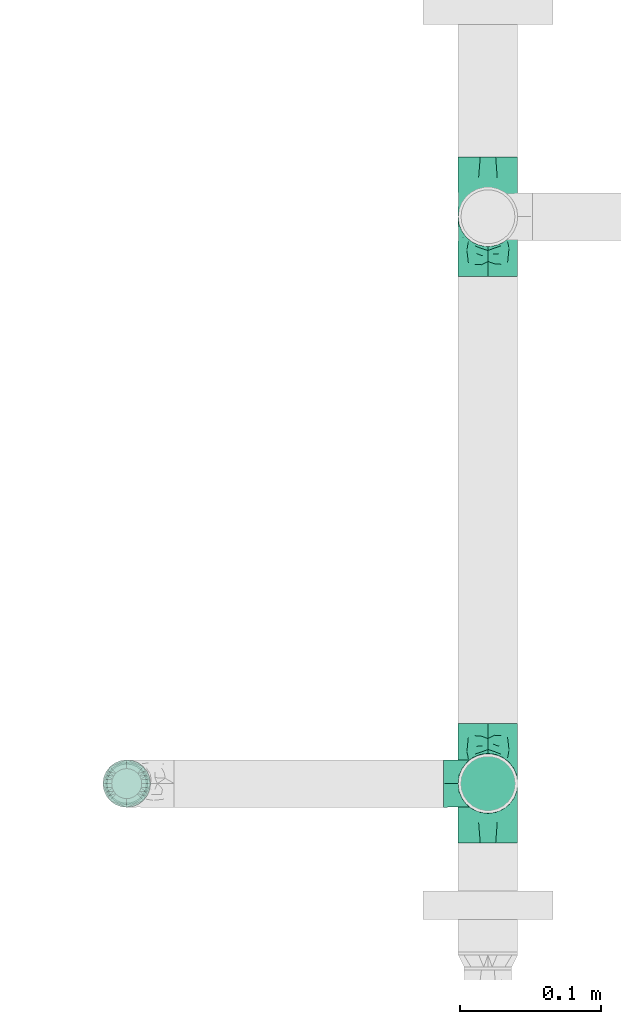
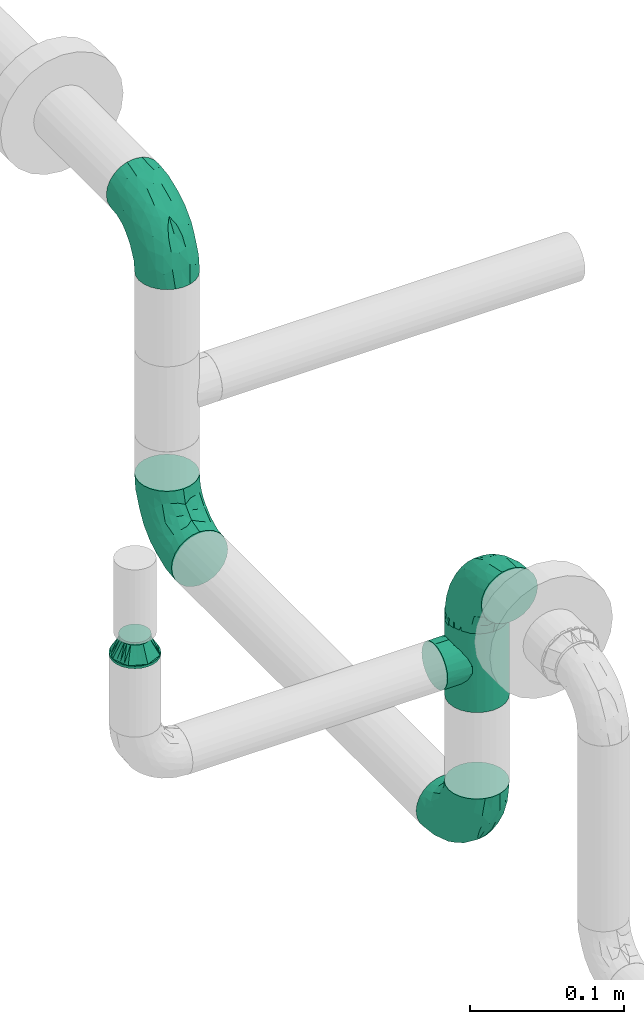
# One storey, part 17 of 43: 6 flow fittings.
"""IFC2X3 building model written with IfcOpenShell, lengths in millimetres."""

from ifc_helpers import new_model, entity, si_unit, converted_unit, derived_unit, direction, frame, origin_with_axes, place, context, subcontext, project, spatial, open_shell, surface_model, source, transform, mapped, type_object, element, save


model = new_model("IFC2X3")

# Units and contexts
model_context = context("Model", 3, precision=0.01, world=frame((0.0, 4.29681676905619e-09, 0.0)), true_north=direction((4.01073788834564e-13, 1.0)))
plan_context = context("Plan", 3, precision=0.01, world=frame((0.0, 4.29681676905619e-09, 0.0)), true_north=direction((4.01073788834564e-13, 1.0)))
body_context = subcontext(model_context, "Body", "Model", "MODEL_VIEW")
ifc_project = project(units=[converted_unit("PLANEANGLEUNIT", "DEGREE", entity("IfcPositiveLengthMeasure", 0.0174532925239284), si_unit("PLANEANGLEUNIT", "RADIAN"), dimensions=[0, 0, 0, 0, 0, 0, 0]), si_unit("AREAUNIT", "SQUARE_METRE"), si_unit("LENGTHUNIT", "METRE", prefix="MILLI"), si_unit("MASSUNIT", "GRAM", prefix="KILO"), si_unit("POWERUNIT", "WATT"), si_unit("PRESSUREUNIT", "PASCAL"), si_unit("FORCEUNIT", "NEWTON", prefix="KILO"), si_unit("ELECTRICVOLTAGEUNIT", "VOLT"), si_unit("ELECTRICCURRENTUNIT", "AMPERE"), si_unit("THERMODYNAMICTEMPERATUREUNIT", "DEGREE_CELSIUS"), si_unit("TIMEUNIT", "SECOND"), si_unit("VOLUMEUNIT", "CUBIC_METRE"), derived_unit("LINEARVELOCITYUNIT", [(si_unit("LENGTHUNIT", "METRE"), 1), (si_unit("TIMEUNIT", "SECOND"), -1)]), derived_unit("VOLUMETRICFLOWRATEUNIT", [(si_unit("VOLUMEUNIT", "CUBIC_METRE"), 1), (si_unit("TIMEUNIT", "SECOND"), -1)]), derived_unit("THERMALTRANSMITTANCEUNIT", [(si_unit("POWERUNIT", "WATT"), 1), (si_unit("THERMODYNAMICTEMPERATUREUNIT", "KELVIN"), -1), (si_unit("AREAUNIT", "SQUARE_METRE"), -1)]), derived_unit("SOUNDPRESSUREUNIT", [(si_unit("PRESSUREUNIT", "PASCAL"), 1)])], contexts=[model_context, plan_context])

# Site, building, storey
site_placement = place(None, frame((0.0, -4.29681676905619e-09, 0.0), z_axis=(0.0, 0.0, 1.0), x_axis=(1.0, 0.0, 0.0)))
site = spatial("IfcSite", under=ifc_project, at=site_placement, CompositionType="ELEMENT")
building_placement = place(site_placement, frame((0.0, 4.29681676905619e-09, 0.0), z_axis=(0.0, 0.0, 1.0), x_axis=(1.0, 0.0, 0.0)))
building = spatial("IfcBuilding", under=site, at=building_placement, Name="mc-building", CompositionType="ELEMENT")
storey_placement = place(building_placement, frame((0.0, 0.0, 210900.0), z_axis=(0.0, 0.0, 1.0), x_axis=(1.0, 0.0, 0.0)))
storey = spatial("IfcBuildingStorey", under=building, at=storey_placement, Name="Nivå F", CompositionType="ELEMENT", Elevation=210900.0)

# Flow fittings
pipe_fitting_type_1 = type_object("IfcPipeFittingType", Name="magi_pipe_fe_tee_centric_90_NOR", PredefinedType="JUNCTION")
shared_shape_1 = source(origin_with_axes(), body_context, "Body", "SurfaceModel", [
    surface_model("IfcShellBasedSurfaceModel", [(-33.8, 0.0, -21.2), (-33.8, -5.48696, -20.47763), (-33.8, 5.48696, -20.47763), (-33.8, 10.6, -18.35974), (-33.8, 14.99066, -14.99066), (-33.8, -20.47763, 5.48696), (-33.8, 18.35974, -10.6), (-33.8, 10.6, 18.35974), (-33.8, -14.99066, -14.99066), (-33.8, -18.35974, -10.6), (-33.8, -10.6, -18.35974), (-33.8, -20.47763, -5.48696), (-33.8, -21.2, 0.0), (-33.8, 18.35974, 10.6), (-33.8, 20.47763, -5.48696), (-33.8, 20.47763, 5.48696), (-33.8, 21.2, 0.0), (-33.8, 14.99066, 14.99066), (-33.8, 5.48696, 20.47763), (-33.8, 0.0, 21.2), (-33.8, -18.35974, 10.6), (-33.8, -14.99066, 14.99066), (-33.8, -10.6, 18.35974), (-33.8, -5.48696, 20.47763), (33.8, 5.48696, -20.47763), (33.8, -5.48696, -20.47763), (33.8, 0.0, -21.2), (33.8, 14.99066, -14.99066), (33.8, 10.6, -18.35974), (33.8, 18.35974, -10.6), (33.8, 20.47763, -5.48696), (33.8, -21.2, 0.0), (33.8, -10.6, -18.35974), (33.8, -18.35974, -10.6), (33.8, -14.99066, -14.99066), (33.8, -20.47763, -5.48696), (33.8, -20.47763, 5.48696), (33.8, 21.2, 0.0), (33.8, 20.47763, 5.48696), (33.8, 18.35974, 10.6), (33.8, 10.6, 18.35974), (33.8, 14.99066, 14.99066), (33.8, 0.0, 21.2), (33.8, 5.48696, 20.47763), (33.8, -14.99066, 14.99066), (33.8, -18.35974, 10.6), (33.8, -10.6, 18.35974), (33.8, -5.48696, 20.47763), (16.9, -21.2, 0.0), (15.78624, -20.32327, 6.03364), (12.81343, -18.11115, 11.01935), (8.52479, -15.37862, 14.59239), (3.07939, -13.16482, 16.61708), (-16.9, -21.2, 0.0), (-15.78686, -20.32375, 6.032), (-8.52604, -15.37932, 14.59166), (-3.0848, -13.16609, 16.61608), (-12.81602, -18.11299, 11.01634), (3.07939, -13.16482, -16.61708), (12.81343, -18.11115, -11.01935), (8.52479, -15.37862, -14.59239), (15.78624, -20.32327, -6.03364), (-3.0848, -13.16609, -16.61608), (-8.52604, -15.37932, -14.59166), (-12.81602, -18.11299, -11.01634), (-15.78686, -20.32375, -6.032), (4.37404, -31.8, -16.32415), (-16.9, -31.8, 0.0), (0.0, -31.8, -16.9), (14.63583, -31.8, -8.45), (8.45, -31.8, -14.63583), (16.32415, -31.8, -4.37404), (11.9501, -31.8, -11.9501), (-11.9501, -31.8, -11.9501), (-8.45, -31.8, -14.63583), (-4.37404, -31.8, -16.32415), (-14.63583, -31.8, -8.45), (-16.32415, -31.8, -4.37404), (16.9, -31.8, 0.0), (8.45, -31.8, 14.63583), (16.32415, -31.8, 4.37404), (14.63583, -31.8, 8.45), (-8.45, -31.8, 14.63583), (11.9501, -31.8, 11.9501), (4.37404, -31.8, 16.32415), (-16.32415, -31.8, 4.37404), (-11.9501, -31.8, 11.9501), (-14.63583, -31.8, 8.45), (0.0, -31.8, 16.9), (-4.37404, -31.8, 16.32415), (-16.34343, -20.76188, 3.016), (16.34312, -20.76163, 3.01682), (-0.00271, -13.16546, 16.61658), (16.34312, -20.76163, -3.01682), (-0.00271, -13.16546, -16.61658), (-16.34343, -20.76188, -3.016)], [open_shell([[[0, 1, 2]], [[3, 2, 4]], [[5, 2, 1]], [[4, 2, 6]], [[6, 2, 7]], [[8, 9, 10]], [[1, 10, 9]], [[9, 11, 1]], [[12, 1, 11]], [[5, 1, 12]], [[13, 14, 6]], [[13, 15, 16]], [[6, 7, 13]], [[5, 7, 2]], [[17, 13, 7]], [[18, 7, 19]], [[20, 21, 5]], [[22, 5, 21]], [[23, 19, 22]], [[7, 5, 22]], [[22, 19, 7]], [[16, 14, 13]], [[24, 25, 26]], [[27, 24, 28]], [[29, 30, 24]], [[29, 24, 27]], [[31, 24, 30]], [[32, 33, 34]], [[33, 32, 25]], [[33, 31, 35]], [[31, 33, 25]], [[25, 24, 31]], [[30, 36, 31]], [[37, 38, 39]], [[37, 39, 40]], [[37, 40, 36]], [[40, 39, 41]], [[42, 40, 43]], [[36, 44, 45]], [[44, 36, 46]], [[46, 42, 47]], [[46, 36, 40]], [[40, 42, 46]], [[37, 36, 30]], [[31, 36, 48]], [[49, 48, 36]], [[36, 45, 49]], [[45, 44, 50]], [[51, 50, 44]], [[52, 51, 44]], [[44, 46, 52]], [[45, 50, 49]], [[53, 54, 5]], [[5, 12, 53]], [[54, 20, 5]], [[55, 56, 21]], [[20, 57, 21]], [[57, 20, 54]], [[21, 57, 55]], [[56, 22, 21]], [[52, 22, 56]], [[19, 47, 42]], [[23, 46, 47]], [[18, 42, 43]], [[39, 38, 15]], [[17, 40, 41]], [[13, 41, 39]], [[43, 40, 7]], [[16, 38, 37]], [[22, 46, 23]], [[23, 47, 19]], [[18, 19, 42]], [[43, 7, 18]], [[7, 40, 17]], [[13, 17, 41]], [[15, 13, 39]], [[38, 16, 15]], [[46, 22, 52]], [[6, 30, 29]], [[14, 37, 30]], [[4, 29, 27]], [[26, 25, 1]], [[2, 28, 24]], [[0, 24, 26]], [[27, 28, 3]], [[10, 25, 32]], [[16, 37, 14]], [[14, 30, 6]], [[4, 6, 29]], [[27, 3, 4]], [[3, 28, 2]], [[0, 2, 24]], [[1, 0, 26]], [[25, 10, 1]], [[32, 58, 10]], [[34, 59, 60]], [[59, 34, 33]], [[60, 58, 34]], [[34, 58, 32]], [[35, 31, 48]], [[35, 61, 33]], [[61, 35, 48]], [[33, 61, 59]], [[62, 63, 8]], [[8, 64, 9]], [[64, 8, 63]], [[62, 8, 10]], [[65, 53, 11]], [[65, 11, 9]], [[11, 53, 12]], [[65, 9, 64]], [[58, 62, 10]], [[66, 67, 68]], [[69, 66, 70]], [[69, 71, 66]], [[69, 70, 72]], [[67, 66, 71]], [[68, 73, 74]], [[74, 75, 68]], [[76, 67, 77]], [[73, 68, 76]], [[67, 76, 68]], [[71, 78, 67]], [[79, 78, 80]], [[79, 80, 81]], [[82, 67, 79]], [[79, 81, 83]], [[82, 79, 84]], [[85, 86, 87]], [[86, 85, 82]], [[82, 88, 89]], [[85, 67, 82]], [[84, 88, 82]], [[79, 67, 78]], [[85, 90, 67]], [[57, 87, 86]], [[85, 87, 54]], [[86, 82, 55]], [[85, 54, 90]], [[90, 53, 67]], [[54, 87, 57]], [[91, 49, 80]], [[55, 89, 56]], [[55, 57, 86]], [[88, 52, 92]], [[55, 82, 89]], [[52, 88, 84]], [[79, 51, 84]], [[50, 83, 81]], [[83, 51, 79]], [[81, 80, 49]], [[83, 50, 51]], [[51, 52, 84]], [[78, 91, 80]], [[49, 50, 81]], [[91, 78, 48]], [[88, 56, 89]], [[92, 56, 88]], [[71, 93, 78]], [[59, 69, 72]], [[71, 69, 61]], [[72, 70, 60]], [[93, 48, 78]], [[61, 69, 59]], [[60, 66, 58]], [[60, 59, 72]], [[68, 62, 94]], [[60, 70, 66]], [[95, 67, 53]], [[95, 65, 77]], [[71, 61, 93]], [[75, 62, 68]], [[65, 76, 77]], [[73, 76, 64]], [[68, 58, 66]], [[75, 63, 62]], [[63, 75, 74]], [[74, 73, 63]], [[63, 73, 64]], [[64, 76, 65]], [[67, 95, 77]], [[94, 58, 68]]])]),
])
flow_fitting_1_placement = place(storey_placement, frame((610366.6122, 690991.80919, 2560.0), z_axis=(0.0, 1.0, 0.0), x_axis=(0.0, 0.0, 1.0)))
element("IfcFlowFitting", 1, at=flow_fitting_1_placement, inside=storey, type_object=pipe_fitting_type_1, Name="magi_pipe_fe_tee_centric_90_NOR", context=body_context, shape_type="MappedRepresentation", body=[
    mapped(shared_shape_1, transform((0.0, 0.0, 0.0), scale=1.0)),
])
pipe_fitting_type_2 = type_object("IfcPipeFittingType", Name="magi_pipe_fe_reducer_centric_short_NOR", PredefinedType="TRANSITION")
shared_shape_2 = source(origin_with_axes(), body_context, "Body", "SurfaceModel", [
    surface_model("IfcShellBasedSurfaceModel", [(14.4, 4.37404, -16.32415), (14.4, 8.45, -14.63583), (14.4, 11.9501, -11.9501), (14.4, -8.45, -14.63583), (14.4, 16.32415, -4.37404), (14.4, 16.32415, 4.37404), (14.4, 14.63583, -8.45), (14.4, 0.0, -16.9), (14.4, -4.37404, -16.32415), (14.4, -11.9501, -11.9501), (14.4, -16.32415, -4.37404), (14.4, -14.63583, -8.45), (14.4, -16.32415, 4.37404), (14.4, 16.9, 0.0), (14.4, 14.63583, 8.45), (14.4, 11.9501, 11.9501), (14.4, 4.37404, 16.32415), (14.4, 8.45, 14.63583), (14.4, 0.0, 16.9), (14.4, -14.63583, 8.45), (14.4, -16.9, 0.0), (14.4, -8.45, 14.63583), (14.4, -11.9501, 11.9501), (14.4, -4.37404, 16.32415), (12.4, 4.37404, 16.32415), (12.4, -14.63583, 8.45), (12.4, 0.0, 16.9), (12.4, 16.32415, 4.37404), (12.4, 8.45, 14.63583), (12.4, 11.9501, 11.9501), (12.4, 14.63583, 8.45), (12.4, -8.45, 14.63583), (12.4, -11.9501, 11.9501), (12.4, -4.37404, 16.32415), (12.4, -16.32415, 4.37404), (12.4, -16.32415, -4.37404), (12.4, -16.9, 0.0), (12.4, -8.45, -14.63583), (12.4, 16.32415, -4.37404), (12.4, 11.9501, -11.9501), (12.4, 14.63583, -8.45), (12.4, 8.45, -14.63583), (12.4, 4.37404, -16.32415), (12.4, 0.0, -16.9), (12.4, -11.9501, -11.9501), (12.4, -14.63583, -8.45), (12.4, -4.37404, -16.32415), (12.4, 16.9, 0.0), (-2.0, 10.33541, 2.76936), (-2.0, 0.0, 10.7), (-2.0, 2.76936, 10.33541), (-2.0, 7.56604, 7.56604), (-2.0, 5.35, 9.26647), (-2.0, 9.26647, 5.35), (-2.0, -9.26647, 5.35), (-2.0, -2.76936, 10.33541), (-2.0, -7.56604, 7.56604), (-2.0, -5.35, 9.26647), (-2.0, -10.33541, 2.76936), (-2.0, -10.33541, -2.76936), (-2.0, -10.7, 0.0), (-2.0, 10.33541, -2.76936), (-2.0, 7.56604, -7.56604), (-2.0, 9.26647, -5.35), (-2.0, 5.35, -9.26647), (-2.0, -5.35, -9.26647), (-2.0, 2.76936, -10.33541), (-2.0, -7.56604, -7.56604), (-2.0, -9.26647, -5.35), (-2.0, 0.0, -10.7), (-2.0, -2.76936, -10.33541), (-2.0, 10.7, 0.0), (0.0, 5.35, -9.26647), (0.0, 0.0, -10.7), (0.0, 2.76936, -10.33541), (0.0, 10.33541, -2.76936), (0.0, 7.56604, -7.56604), (0.0, -5.35, -9.26647), (0.0, 9.26647, -5.35), (0.0, -9.26647, 5.35), (0.0, -2.76936, -10.33541), (0.0, -7.56604, -7.56604), (0.0, -10.33541, -2.76936), (0.0, -9.26647, -5.35), (0.0, 10.33541, 2.76936), (0.0, 10.7, 0.0), (0.0, 9.26647, 5.35), (0.0, 7.56604, 7.56604), (0.0, 2.76936, 10.33541), (0.0, 0.0, 10.7), (0.0, 5.35, 9.26647), (0.0, -10.33541, 2.76936), (0.0, -10.7, 0.0), (0.0, -7.56604, 7.56604), (0.0, -2.76936, 10.33541), (0.0, -5.35, 9.26647), (0.0, -9.3625, -2.31662), (12.4, -14.42505, -5.97505), (12.4, -15.66253, -2.98753), (0.0, 6.6875, -6.94985), (12.4, 8.96258, -13.18758), (0.0, -6.6875, -6.94985), (12.4, -8.96258, -13.18758), (0.0, 9.3625, -2.31662), (12.4, 15.66253, -2.98753), (12.4, 14.42505, -5.97505), (12.4, -5.97505, -14.42505), (12.4, 5.97505, -14.42505), (0.0, 2.675, -9.26647), (12.4, 13.18758, -8.96258), (0.0, -2.675, -9.26647), (12.4, -13.18758, -8.96258), (0.0, -8.025, -4.63324), (12.4, 2.98753, -15.66253), (0.0, 0.0, -9.26647), (12.4, -2.98753, -15.66253), (0.0, 8.025, -4.63324), (0.0, 9.3625, 2.31662), (12.4, 14.42505, 5.97505), (12.4, 15.66253, 2.98753), (0.0, -6.6875, 6.94985), (12.4, -8.96258, 13.18758), (0.0, 6.6875, 6.94985), (12.4, 8.96258, 13.18758), (0.0, -9.3625, 2.31662), (12.4, -15.66253, 2.98753), (12.4, -14.42505, 5.97505), (12.4, 5.97505, 14.42505), (12.4, -5.97505, 14.42505), (0.0, -2.675, 9.26647), (12.4, -13.18758, 8.96258), (0.0, 2.675, 9.26647), (12.4, 13.18758, 8.96258), (0.0, 8.025, 4.63324), (12.4, -2.98753, 15.66253), (0.0, 0.0, 9.26647), (12.4, 2.98753, 15.66253), (0.0, -8.025, 4.63324)], [open_shell([[[0, 1, 2]], [[3, 0, 2]], [[2, 4, 5]], [[4, 2, 6]], [[2, 5, 3]], [[7, 3, 8]], [[7, 0, 3]], [[9, 10, 11]], [[10, 9, 3]], [[3, 12, 10]], [[5, 4, 13]], [[5, 14, 15]], [[5, 15, 16]], [[16, 12, 3]], [[16, 15, 17]], [[12, 16, 18]], [[18, 19, 12]], [[20, 10, 12]], [[19, 21, 22]], [[19, 18, 21]], [[21, 18, 23]], [[3, 5, 16]], [[24, 25, 26]], [[27, 24, 28]], [[29, 30, 27]], [[29, 27, 28]], [[25, 24, 27]], [[31, 25, 32]], [[31, 33, 26]], [[26, 25, 31]], [[34, 25, 27]], [[34, 35, 36]], [[34, 27, 37]], [[27, 38, 39]], [[39, 38, 40]], [[39, 41, 42]], [[37, 27, 39]], [[42, 43, 39]], [[35, 44, 45]], [[44, 35, 37]], [[37, 43, 46]], [[35, 34, 37]], [[39, 43, 37]], [[38, 27, 47]], [[35, 10, 36]], [[45, 11, 35]], [[3, 44, 37]], [[45, 44, 9]], [[8, 37, 46]], [[35, 11, 10]], [[10, 20, 36]], [[8, 3, 37]], [[9, 44, 3]], [[9, 11, 45]], [[7, 8, 46]], [[46, 43, 7]], [[42, 0, 43]], [[41, 1, 42]], [[6, 39, 40]], [[41, 39, 2]], [[4, 40, 38]], [[41, 2, 1]], [[1, 0, 42]], [[13, 4, 38]], [[6, 40, 4]], [[6, 2, 39]], [[47, 13, 38]], [[43, 0, 7]], [[27, 5, 47]], [[30, 14, 27]], [[17, 29, 28]], [[30, 29, 15]], [[16, 28, 24]], [[27, 14, 5]], [[5, 13, 47]], [[16, 17, 28]], [[15, 29, 17]], [[15, 14, 30]], [[18, 16, 24]], [[24, 26, 18]], [[33, 23, 26]], [[31, 21, 33]], [[19, 32, 25]], [[31, 32, 22]], [[12, 25, 34]], [[31, 22, 21]], [[21, 23, 33]], [[20, 12, 34]], [[19, 25, 12]], [[19, 22, 32]], [[36, 20, 34]], [[26, 23, 18]], [[48, 49, 50]], [[51, 50, 52]], [[51, 53, 48]], [[51, 48, 50]], [[49, 48, 54]], [[55, 56, 57]], [[56, 55, 54]], [[58, 59, 60]], [[54, 55, 49]], [[58, 54, 59]], [[54, 48, 61]], [[59, 54, 61]], [[62, 61, 63]], [[59, 62, 64]], [[61, 62, 59]], [[65, 64, 66]], [[59, 67, 68]], [[67, 59, 65]], [[65, 69, 70]], [[65, 59, 64]], [[66, 69, 65]], [[61, 48, 71]], [[72, 73, 74]], [[75, 72, 76]], [[77, 72, 75]], [[75, 76, 78]], [[79, 77, 75]], [[73, 77, 80]], [[73, 72, 77]], [[81, 82, 83]], [[82, 81, 77]], [[77, 79, 82]], [[84, 75, 85]], [[84, 86, 87]], [[75, 87, 79]], [[88, 89, 87]], [[88, 87, 90]], [[79, 87, 89]], [[82, 91, 92]], [[79, 91, 82]], [[93, 94, 95]], [[94, 93, 79]], [[89, 94, 79]], [[75, 84, 87]], [[59, 82, 60]], [[68, 83, 59]], [[77, 67, 65]], [[68, 67, 81]], [[80, 65, 70]], [[59, 83, 82]], [[82, 92, 60]], [[80, 77, 65]], [[81, 67, 77]], [[81, 83, 68]], [[73, 80, 70]], [[70, 69, 73]], [[66, 74, 69]], [[64, 72, 66]], [[78, 62, 63]], [[64, 62, 76]], [[75, 63, 61]], [[64, 76, 72]], [[72, 74, 66]], [[85, 75, 61]], [[78, 63, 75]], [[78, 76, 62]], [[71, 85, 61]], [[69, 74, 73]], [[48, 84, 71]], [[53, 86, 48]], [[90, 51, 52]], [[53, 51, 87]], [[88, 52, 50]], [[48, 86, 84]], [[84, 85, 71]], [[88, 90, 52]], [[87, 51, 90]], [[87, 86, 53]], [[89, 88, 50]], [[50, 49, 89]], [[55, 94, 49]], [[57, 95, 55]], [[79, 56, 54]], [[57, 56, 93]], [[91, 54, 58]], [[57, 93, 95]], [[95, 94, 55]], [[92, 91, 58]], [[79, 54, 91]], [[79, 93, 56]], [[60, 92, 58]], [[49, 94, 89]], [[29, 26, 39]], [[39, 47, 29]], [[36, 26, 32]], [[36, 44, 43]], [[43, 39, 36]], [[36, 39, 26]], [[92, 95, 77]], [[85, 95, 90]], [[85, 72, 77]], [[85, 77, 95]], [[96, 97, 98]], [[92, 96, 98]], [[99, 100, 72]], [[98, 36, 92]], [[44, 101, 102]], [[101, 77, 102]], [[103, 104, 105]], [[85, 47, 104]], [[77, 106, 102]], [[107, 108, 72]], [[109, 39, 99]], [[106, 77, 110]], [[101, 111, 112]], [[113, 114, 108]], [[100, 99, 39]], [[110, 115, 106]], [[99, 116, 109]], [[100, 107, 72]], [[96, 112, 97]], [[105, 116, 103]], [[85, 104, 103]], [[108, 107, 113]], [[113, 43, 114]], [[116, 105, 109]], [[114, 115, 110]], [[43, 115, 114]], [[111, 101, 44]], [[111, 97, 112]], [[117, 118, 119]], [[85, 117, 119]], [[120, 121, 95]], [[119, 47, 85]], [[29, 122, 123]], [[122, 90, 123]], [[124, 125, 126]], [[92, 36, 125]], [[90, 127, 123]], [[128, 129, 95]], [[130, 32, 120]], [[127, 90, 131]], [[122, 132, 133]], [[134, 135, 129]], [[121, 120, 32]], [[131, 136, 127]], [[120, 137, 130]], [[121, 128, 95]], [[117, 133, 118]], [[126, 137, 124]], [[92, 125, 124]], [[129, 128, 134]], [[134, 26, 135]], [[137, 126, 130]], [[135, 136, 131]], [[26, 136, 135]], [[132, 122, 29]], [[132, 118, 133]]])]),
])
flow_fitting_2_placement = place(storey_placement, frame((610109.53901, 690991.77265, 2662.5), z_axis=(1.0, 0.0, 0.0), x_axis=(0.0, 0.0, -1.0)))
element("IfcFlowFitting", 2, at=flow_fitting_2_placement, inside=storey, type_object=pipe_fitting_type_2, Name="magi_pipe_fe_reducer_centric_short_NOR", context=body_context, shape_type="MappedRepresentation", body=[
    mapped(shared_shape_2, transform((0.0, 0.0, 0.0), scale=1.0)),
])
pipe_fitting_type_3 = type_object("IfcPipeFittingType", Name="magi_pipe_fe_elbow_short_001", PredefinedType="BEND")
shared_shape_3 = source(origin_with_axes(), body_context, "Body", "SurfaceModel", [
    surface_model("IfcShellBasedSurfaceModel", [(-42.4, 10.6, -18.35974), (-42.4, 5.48696, -20.47763), (-42.4, 0.0, -21.2), (-42.4, 14.99066, -14.99066), (-42.4, 20.47763, -5.48696), (-42.4, 18.35974, -10.6), (-42.4, -14.99066, 14.99066), (-42.4, -21.2, 0.0), (-42.4, -10.6, -18.35974), (-42.4, -14.99066, -14.99066), (-42.4, -5.48696, -20.47763), (-42.4, -18.35974, -10.6), (-42.4, -20.47763, -5.48696), (-42.4, 10.6, 18.35974), (-42.4, 20.47763, 5.48696), (-42.4, 18.35974, 10.6), (-42.4, 14.99066, 14.99066), (-42.4, 5.48696, 20.47763), (-42.4, 0.0, 21.2), (-42.4, -20.47763, 5.48696), (-42.4, -18.35974, 10.6), (-42.4, -10.6, 18.35974), (-42.4, -5.48696, 20.47763), (-42.4, 21.2, 0.0), (0.0, 42.4, -21.2), (-5.48696, 42.4, -20.47763), (-10.6, 42.4, -18.35974), (-14.99066, 42.4, -14.99066), (-18.35974, 42.4, -10.6), (-20.47763, 42.4, -5.48696), (21.2, 42.4, 0.0), (5.48696, 42.4, -20.47763), (14.99066, 42.4, -14.99066), (10.6, 42.4, -18.35974), (18.35974, 42.4, -10.6), (20.47763, 42.4, -5.48696), (14.99066, 42.4, 14.99066), (-20.47763, 42.4, 5.48696), (-10.6, 42.4, 18.35974), (-14.99066, 42.4, 14.99066), (-18.35974, 42.4, 10.6), (-5.48696, 42.4, 20.47763), (0.0, 42.4, 21.2), (18.35974, 42.4, 10.6), (20.47763, 42.4, 5.48696), (5.48696, 42.4, 20.47763), (10.6, 42.4, 18.35974), (-21.2, 42.4, 0.0), (-31.10239, -16.47009, 11.90111), (-27.83957, -12.231, 15.79732), (-30.23067, -18.77937, 0.0), (-18.74048, -13.50096, 10.69998), (-28.17586, -18.50359, 6.61185), (18.50359, 28.17586, 6.61185), (14.95929, 16.60735, 5.43468), (16.35874, 18.06133, 0.0), (-20.72313, 33.83635, 9.21426), (-17.70981, 33.00599, 13.92769), (-31.16033, -8.01664, 19.07348), (-32.38682, -2.80842, 20.83743), (-29.68688, 3.24967, 21.16387), (-7.74467, -9.46536, 0.0), (-16.60735, -14.95929, 5.43468), (-18.06133, -16.35874, 0.0), (-16.37932, -5.14532, 17.61254), (-21.10659, -0.19025, 20.54817), (-1.82445, -3.58377, 9.55223), (-0.35533, 0.43745, 12.66367), (-7.20655, -5.07682, 13.06146), (-33.14056, 17.6728, 13.91288), (-7.36799, 20.84806, 21.16196), (-15.70315, 15.70315, 20.68489), (-12.62356, 9.26422, 21.0908), (-36.67879, 12.83836, 17.27427), (-7.91358, 36.5686, 19.85759), (-2.90555, 31.71221, 21.14793), (-33.84689, 20.71971, 9.21285), (-33.51649, 22.58113, 4.66115), (-26.3226, 26.3226, 7.92474), (-32.67995, 8.31454, 20.02643), (-5.53379, 14.19921, 20.81623), (-10.53385, 3.88918, 19.79653), (-2.16577, 11.45378, 19.48254), (-3.78693, 3.78693, 17.3328), (12.231, 27.83957, 15.79732), (13.50096, 18.74047, 10.69998), (16.47009, 31.10239, 11.90111), (-22.53806, 14.38475, 19.60876), (-23.29615, 9.08095, 20.82061), (2.80842, 32.38682, 20.83743), (8.01664, 31.16033, 19.07348), (5.14532, 16.37932, 17.61254), (18.77937, 30.23067, 0.0), (-20.80278, 5.19491, 21.19095), (-19.62579, 22.38752, 17.42006), (-29.19336, 14.39093, 17.85259), (-22.31569, 34.20044, 4.54807), (-26.56962, 27.80621, 3.73106), (9.67657, 17.17133, 14.49993), (-24.04026, 31.8, 0.0), (-9.16861, 28.72652, 20.19004), (-12.09761, 21.9456, 20.37969), (-15.36991, 27.40112, 17.818), (-16.88976, 20.52477, 19.2896), (-12.95169, 35.54896, 17.36222), (-17.17133, -9.67657, 14.49993), (-21.98655, 28.10245, 11.99898), (-22.34699, 23.67592, 15.01692), (-27.22822, 22.77969, 11.82161), (0.19025, 21.10658, 20.54817), (4.8276, 7.36347, 13.42842), (-10.06209, -9.46364, 9.95114), (1.25876, -2.7536, 5.73797), (6.43781, 3.77591, 7.40371), (6.57528, 2.20066, 3.17705), (10.91934, 8.84313, 5.00748), (10.64415, 10.99764, 8.89767), (-31.8, 24.04026, 0.0), (-5.71381, -8.43063, 6.15529), (2.57199, -2.57199, 0.0), (9.46536, 7.74467, 0.0), (-17.17133, -9.67657, -14.49993), (-27.83957, -12.231, -15.79732), (-16.37932, -5.14532, -17.61254), (-18.74048, -13.50096, -10.69998), (-33.00599, 17.70981, -13.92769), (-35.54896, 12.95169, -17.36222), (-34.20044, 22.31569, -4.54807), (-28.17586, -18.50359, -6.61185), (-26.3226, 26.3226, -7.92474), (-33.83635, 20.72313, -9.21426), (-16.60735, -14.95929, -5.43468), (-20.52477, 16.88976, -19.2896), (-21.9456, 12.0976, -20.37969), (-27.40112, 15.36991, -17.818), (-12.83836, 36.67879, -17.27427), (-17.6728, 33.14056, -13.91288), (8.01664, 31.16033, -19.07348), (5.14532, 16.37932, -17.61254), (0.19025, 21.10658, -20.54817), (-36.5686, 7.91358, -19.85759), (-31.10239, -16.47009, -11.90111), (-31.16033, -8.01664, -19.07348), (-14.38475, 22.53806, -19.60876), (-8.31454, 32.67995, -20.02643), (-9.08095, 23.29615, -20.82061), (-32.38682, -2.80842, -20.83743), (-20.84806, 7.36799, -21.16196), (-15.70315, 15.70314, -20.68489), (-9.26422, 12.62356, -21.0908), (-31.71221, 2.90555, -21.14793), (-22.58113, 33.51649, -4.66115), (-20.71971, 33.84689, -9.21285), (-28.72652, 9.16861, -20.19004), (-27.80621, 26.56962, -3.73106), (-5.19491, 20.80278, -21.19095), (-22.38752, 19.62579, -17.42006), (-14.39093, 29.19336, -17.85259), (2.80842, 32.38682, -20.83743), (-3.24967, 29.68688, -21.16387), (16.47009, 31.10239, -11.90111), (12.231, 27.83957, -15.79732), (6.57528, 2.20067, -3.17705), (10.91934, 8.84313, -5.00749), (-14.19921, 5.53379, -20.81623), (-3.88918, 10.53385, -19.79653), (-11.45378, 2.16577, -19.48254), (1.25876, -2.7536, -5.73797), (-5.71381, -8.43063, -6.15529), (-1.82445, -3.58377, -9.55223), (13.50096, 18.74048, -10.69998), (18.50359, 28.17586, -6.61185), (14.95929, 16.60735, -5.43468), (-28.10245, 21.98655, -11.99898), (9.67657, 17.17133, -14.49993), (10.64415, 10.99764, -8.89767), (4.8276, 7.36347, -13.42842), (-23.67592, 22.34699, -15.01692), (-22.77969, 27.22822, -11.82161), (-21.10658, -0.19025, -20.54817), (-3.78693, 3.78693, -17.3328), (-7.20655, -5.07682, -13.06146), (-10.06209, -9.46364, -9.95113), (-0.35533, 0.43745, -12.66367), (6.43781, 3.77591, -7.40371)], [open_shell([[[0, 1, 2]], [[3, 0, 2]], [[4, 5, 3]], [[2, 4, 3]], [[6, 2, 7]], [[8, 9, 10]], [[11, 10, 9]], [[12, 7, 11]], [[2, 10, 11]], [[11, 7, 2]], [[6, 4, 2]], [[13, 14, 4]], [[15, 14, 16]], [[4, 6, 13]], [[16, 14, 13]], [[17, 13, 18]], [[19, 20, 7]], [[7, 20, 6]], [[21, 22, 6]], [[18, 6, 22]], [[6, 18, 13]], [[23, 4, 14]], [[24, 25, 26]], [[24, 26, 27]], [[27, 28, 29]], [[27, 29, 24]], [[24, 29, 30]], [[31, 32, 33]], [[31, 24, 32]], [[34, 30, 35]], [[32, 24, 34]], [[24, 30, 34]], [[29, 36, 30]], [[29, 37, 38]], [[39, 37, 40]], [[36, 29, 38]], [[38, 37, 39]], [[41, 42, 38]], [[30, 43, 44]], [[36, 43, 30]], [[36, 45, 46]], [[45, 36, 42]], [[38, 42, 36]], [[37, 29, 47]], [[6, 48, 49]], [[19, 7, 50]], [[51, 48, 52]], [[53, 54, 55]], [[48, 6, 20]], [[19, 52, 20]], [[40, 56, 57]], [[49, 21, 6]], [[49, 58, 21]], [[18, 59, 60]], [[61, 62, 63]], [[58, 64, 65]], [[66, 67, 68]], [[15, 16, 69]], [[70, 71, 72]], [[13, 73, 16]], [[22, 59, 18]], [[41, 74, 75]], [[18, 60, 17]], [[15, 69, 76]], [[16, 73, 69]], [[23, 14, 77]], [[14, 15, 76]], [[77, 76, 78]], [[17, 79, 13]], [[80, 81, 82]], [[68, 83, 64]], [[84, 36, 46]], [[85, 86, 84]], [[87, 79, 88]], [[21, 58, 22]], [[42, 89, 45]], [[53, 44, 43]], [[42, 41, 75]], [[84, 90, 91]], [[43, 86, 53]], [[92, 44, 53]], [[86, 43, 36]], [[90, 46, 45]], [[53, 55, 92]], [[88, 93, 72]], [[54, 53, 85]], [[87, 94, 95]], [[78, 96, 97]], [[98, 84, 91]], [[99, 96, 47]], [[79, 17, 60]], [[96, 78, 56]], [[62, 52, 63]], [[57, 39, 40]], [[100, 70, 75]], [[101, 102, 103]], [[19, 50, 52]], [[104, 38, 39]], [[74, 41, 38]], [[57, 102, 104]], [[105, 64, 49]], [[90, 84, 46]], [[40, 37, 56]], [[56, 106, 57]], [[102, 57, 107]], [[95, 107, 69]], [[76, 108, 78]], [[100, 101, 70]], [[89, 75, 109]], [[64, 58, 49]], [[63, 52, 50]], [[59, 58, 65]], [[105, 49, 51]], [[64, 83, 81]], [[89, 90, 45]], [[30, 44, 92]], [[109, 82, 91]], [[109, 91, 90]], [[91, 83, 110]], [[111, 68, 105]], [[66, 68, 111]], [[62, 51, 52]], [[66, 112, 113]], [[114, 115, 113]], [[98, 85, 84]], [[52, 48, 20]], [[49, 48, 51]], [[84, 86, 36]], [[53, 86, 85]], [[88, 79, 60]], [[73, 79, 95]], [[96, 56, 37]], [[78, 108, 106]], [[87, 103, 94]], [[100, 74, 104]], [[108, 69, 107]], [[78, 97, 77]], [[88, 72, 71]], [[109, 75, 70]], [[81, 72, 65]], [[70, 72, 80]], [[75, 89, 42]], [[90, 89, 109]], [[58, 59, 22]], [[60, 59, 65]], [[67, 83, 68]], [[110, 113, 116]], [[88, 60, 93]], [[87, 88, 71]], [[103, 87, 71]], [[79, 87, 95]], [[101, 103, 71]], [[94, 103, 102]], [[47, 96, 37]], [[96, 99, 97]], [[99, 117, 97]], [[97, 117, 77]], [[23, 77, 117]], [[14, 76, 77]], [[60, 65, 93]], [[65, 72, 93]], [[70, 101, 71]], [[102, 101, 100]], [[69, 108, 76]], [[106, 108, 107]], [[57, 106, 107]], [[78, 106, 56]], [[57, 104, 39]], [[100, 104, 102]], [[102, 107, 94]], [[95, 94, 107]], [[64, 81, 65]], [[82, 81, 83]], [[91, 82, 83]], [[80, 82, 109]], [[70, 80, 109]], [[81, 80, 72]], [[79, 73, 13]], [[69, 73, 95]], [[104, 74, 38]], [[75, 74, 100]], [[62, 61, 118]], [[111, 62, 118]], [[113, 115, 116]], [[119, 118, 61]], [[111, 105, 51]], [[113, 112, 114]], [[120, 55, 54]], [[68, 64, 105]], [[91, 110, 98]], [[116, 98, 110]], [[62, 111, 51]], [[66, 111, 118]], [[112, 66, 118]], [[67, 113, 110]], [[118, 119, 112]], [[114, 112, 119]], [[119, 120, 114]], [[115, 120, 54]], [[120, 115, 114]], [[116, 54, 85]], [[54, 116, 115]], [[116, 85, 98]], [[113, 67, 66]], [[83, 67, 110]], [[121, 122, 123]], [[122, 121, 124]], [[5, 125, 3]], [[3, 126, 0]], [[117, 127, 23]], [[50, 12, 128]], [[127, 129, 130]], [[128, 131, 63]], [[132, 133, 134]], [[27, 135, 136]], [[137, 138, 139]], [[0, 140, 1]], [[128, 11, 141]], [[142, 8, 10]], [[128, 63, 50]], [[5, 4, 130]], [[11, 9, 141]], [[143, 144, 145]], [[146, 10, 2]], [[147, 148, 149]], [[11, 128, 12]], [[124, 141, 122]], [[150, 2, 1]], [[151, 152, 129]], [[125, 134, 126]], [[153, 147, 150]], [[127, 154, 129]], [[145, 155, 149]], [[47, 29, 151]], [[143, 156, 157]], [[152, 29, 28]], [[24, 158, 159]], [[122, 9, 8]], [[27, 26, 135]], [[144, 26, 25]], [[32, 160, 161]], [[24, 31, 158]], [[120, 162, 163]], [[130, 125, 5]], [[27, 136, 28]], [[1, 140, 150]], [[33, 161, 137]], [[142, 122, 8]], [[24, 159, 25]], [[164, 165, 166]], [[167, 168, 169]], [[34, 160, 32]], [[161, 33, 32]], [[170, 160, 171]], [[131, 128, 124]], [[30, 92, 35]], [[35, 92, 171]], [[172, 171, 55]], [[35, 171, 34]], [[144, 25, 159]], [[130, 173, 125]], [[174, 175, 176]], [[136, 152, 28]], [[33, 137, 31]], [[122, 142, 123]], [[134, 125, 177]], [[157, 177, 136]], [[152, 178, 129]], [[153, 133, 147]], [[146, 150, 179]], [[146, 142, 10]], [[7, 12, 50]], [[179, 166, 123]], [[179, 123, 142]], [[123, 180, 181]], [[138, 137, 161]], [[55, 171, 92]], [[158, 137, 139]], [[174, 161, 170]], [[138, 180, 165]], [[180, 138, 176]], [[124, 121, 182]], [[176, 183, 180]], [[61, 131, 168]], [[169, 168, 182]], [[172, 170, 171]], [[122, 141, 9]], [[128, 141, 124]], [[171, 160, 34]], [[161, 160, 170]], [[145, 144, 159]], [[135, 144, 157]], [[127, 130, 4]], [[129, 178, 173]], [[143, 132, 156]], [[153, 140, 126]], [[178, 136, 177]], [[129, 154, 151]], [[145, 149, 148]], [[179, 150, 147]], [[165, 149, 139]], [[147, 149, 164]], [[150, 146, 2]], [[142, 146, 179]], [[137, 158, 31]], [[159, 158, 139]], [[174, 138, 161]], [[184, 169, 183]], [[145, 159, 155]], [[143, 145, 148]], [[132, 143, 148]], [[144, 143, 157]], [[133, 132, 148]], [[156, 132, 134]], [[23, 127, 4]], [[127, 117, 154]], [[117, 99, 154]], [[154, 99, 151]], [[47, 151, 99]], [[29, 152, 151]], [[159, 139, 155]], [[139, 149, 155]], [[147, 133, 148]], [[134, 133, 153]], [[136, 178, 152]], [[173, 178, 177]], [[125, 173, 177]], [[129, 173, 130]], [[125, 126, 3]], [[153, 126, 134]], [[134, 177, 156]], [[157, 156, 177]], [[138, 165, 139]], [[166, 165, 180]], [[123, 166, 180]], [[164, 166, 179]], [[147, 164, 179]], [[165, 164, 149]], [[144, 135, 26]], [[136, 135, 157]], [[126, 140, 0]], [[150, 140, 153]], [[182, 131, 124]], [[168, 119, 61]], [[119, 167, 162]], [[63, 131, 61]], [[172, 163, 175]], [[172, 55, 120]], [[123, 181, 121]], [[182, 121, 181]], [[175, 174, 170]], [[176, 138, 174]], [[169, 182, 181]], [[131, 182, 168]], [[183, 169, 181]], [[167, 169, 184]], [[162, 167, 184]], [[119, 168, 167]], [[163, 162, 184]], [[120, 119, 162]], [[175, 163, 184]], [[120, 163, 172]], [[176, 175, 184]], [[172, 175, 170]], [[180, 183, 181]], [[184, 183, 176]]])]),
])
for number, where, z_axis, x_axis, name in (
    (3, (610366.6122, 691395.18624, 2660.0), (1.0, 0.0, 0.0), (0.0, -1.0, 0.0), "magi_pipe_fe_elbow_short_001"),
    (4, (610366.6122, 691395.18624, 2415.0), (-1.0, 0.0, 0.0), (0.0, 0.0, -1.0), "magi_pipe_fe_elbow_short_001"),
    (5, (610366.6122, 690992.01616, 2415.0), (-1.0, 0.0, 0.0), (0.0, -1.0, 0.0), "magi_pipe_fe_elbow_short_001"),
    (6, (610366.6122, 690992.01616, 2630.0), (1.0, 0.0, 0.0), (0.0, 0.0, 1.0), "magi_pipe_fe_elbow_short_001"),
):
    element("IfcFlowFitting", number, at=place(storey_placement, frame(where, z_axis=z_axis, x_axis=x_axis)), inside=storey, type_object=pipe_fitting_type_3, Name=name, context=body_context, shape_type="MappedRepresentation", body=[
        mapped(shared_shape_3, transform((0.0, 0.0, 0.0), scale=1.0)),
    ])

save(model, "model.ifc")
